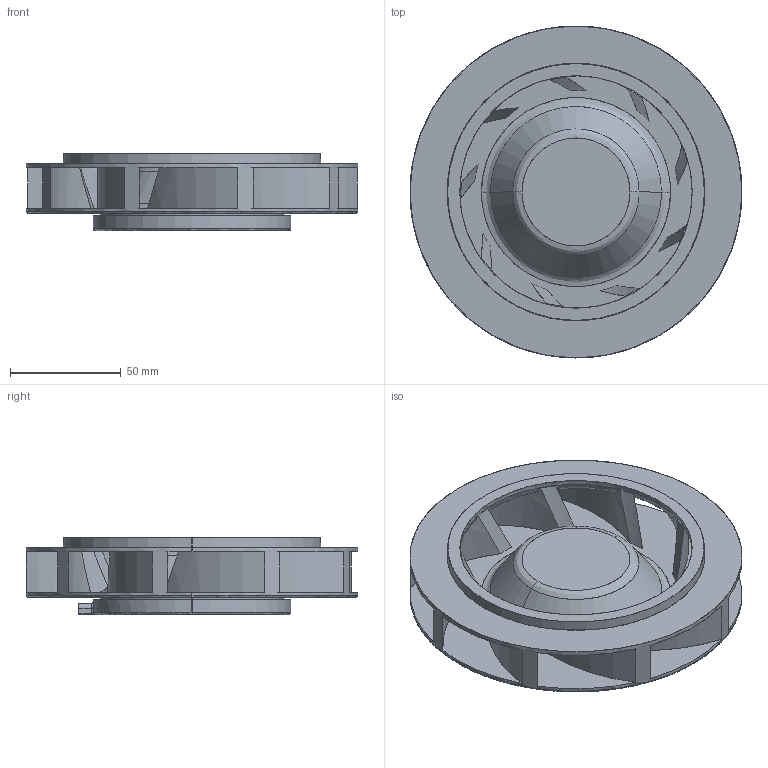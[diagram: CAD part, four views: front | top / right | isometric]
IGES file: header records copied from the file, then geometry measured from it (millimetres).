
Start section: SolidWorks IGES file using analytic representation for surfaces
Bounding box: 150 x 150 x 35 mm (x, y, z)
Surface area: 79661.4 mm2 (no closed solid volume)
Topology: 0 solids, 0 shells, 114 faces, 2304 edges, 2302 vertices
Faces by surface type: bspline 59, revolution 55
